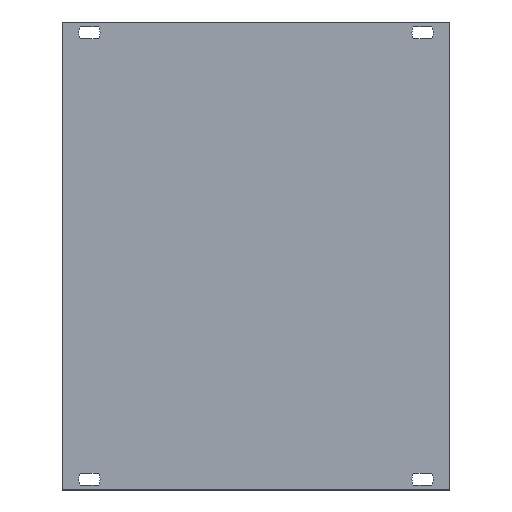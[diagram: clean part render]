
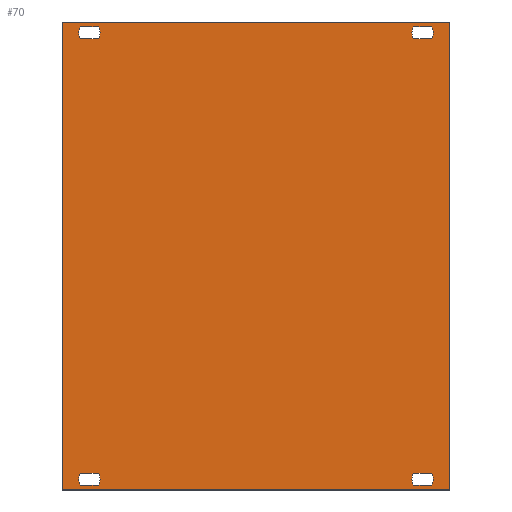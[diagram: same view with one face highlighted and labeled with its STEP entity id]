
A CAD part, top view. The second image highlights one B-rep face of the part: STEP entity #70.
In plain terms, the highlighted planar face has unit normal (0, 0, 1).
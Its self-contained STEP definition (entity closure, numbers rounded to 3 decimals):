
#70=ADVANCED_FACE('',(#155,#156,#157,#158,#159),#160,.F.);
#155=FACE_OUTER_BOUND('',#260,.T.);
#156=FACE_BOUND('',#261,.T.);
#157=FACE_BOUND('',#262,.T.);
#158=FACE_BOUND('',#263,.T.);
#159=FACE_BOUND('',#264,.T.);
#160=PLANE('',#265);
#260=EDGE_LOOP('',(#399,#400,#401,#402));
#261=EDGE_LOOP('',(#403,#404,#405,#406,#407,#408));
#262=EDGE_LOOP('',(#409,#410,#411,#412,#413,#414));
#263=EDGE_LOOP('',(#415,#416,#417,#418,#419,#420));
#264=EDGE_LOOP('',(#421,#422,#423,#424,#425,#426));
#265=AXIS2_PLACEMENT_3D('',#427,#428,#429);
#399=ORIENTED_EDGE('',*,*,#663,.T.);
#400=ORIENTED_EDGE('',*,*,#664,.F.);
#401=ORIENTED_EDGE('',*,*,#665,.F.);
#402=ORIENTED_EDGE('',*,*,#666,.F.);
#403=ORIENTED_EDGE('',*,*,#659,.T.);
#404=ORIENTED_EDGE('',*,*,#667,.T.);
#405=ORIENTED_EDGE('',*,*,#668,.T.);
#406=ORIENTED_EDGE('',*,*,#669,.T.);
#407=ORIENTED_EDGE('',*,*,#656,.T.);
#408=ORIENTED_EDGE('',*,*,#670,.T.);
#409=ORIENTED_EDGE('',*,*,#649,.T.);
#410=ORIENTED_EDGE('',*,*,#671,.T.);
#411=ORIENTED_EDGE('',*,*,#672,.T.);
#412=ORIENTED_EDGE('',*,*,#673,.T.);
#413=ORIENTED_EDGE('',*,*,#646,.T.);
#414=ORIENTED_EDGE('',*,*,#674,.T.);
#415=ORIENTED_EDGE('',*,*,#639,.T.);
#416=ORIENTED_EDGE('',*,*,#675,.T.);
#417=ORIENTED_EDGE('',*,*,#676,.T.);
#418=ORIENTED_EDGE('',*,*,#677,.T.);
#419=ORIENTED_EDGE('',*,*,#636,.T.);
#420=ORIENTED_EDGE('',*,*,#678,.T.);
#421=ORIENTED_EDGE('',*,*,#629,.T.);
#422=ORIENTED_EDGE('',*,*,#679,.T.);
#423=ORIENTED_EDGE('',*,*,#680,.T.);
#424=ORIENTED_EDGE('',*,*,#681,.T.);
#425=ORIENTED_EDGE('',*,*,#626,.T.);
#426=ORIENTED_EDGE('',*,*,#682,.T.);
#427=CARTESIAN_POINT('',(45.72,61.2,2.5));
#428=DIRECTION('',(0.0,0.,-1.0));
#429=DIRECTION('',(0.0,-1.0,0.));
#626=EDGE_CURVE('',#738,#742,#744,.T.);
#629=EDGE_CURVE('',#749,#746,#750,.T.);
#636=EDGE_CURVE('',#756,#760,#762,.T.);
#639=EDGE_CURVE('',#767,#764,#768,.T.);
#646=EDGE_CURVE('',#774,#778,#780,.T.);
#649=EDGE_CURVE('',#785,#782,#786,.T.);
#656=EDGE_CURVE('',#792,#796,#798,.T.);
#659=EDGE_CURVE('',#803,#800,#804,.T.);
#663=EDGE_CURVE('',#809,#810,#811,.T.);
#664=EDGE_CURVE('',#812,#810,#813,.T.);
#665=EDGE_CURVE('',#814,#812,#815,.T.);
#666=EDGE_CURVE('',#809,#814,#816,.T.);
#667=EDGE_CURVE('',#800,#817,#818,.T.);
#668=EDGE_CURVE('',#817,#819,#820,.T.);
#669=EDGE_CURVE('',#819,#792,#821,.T.);
#670=EDGE_CURVE('',#796,#803,#822,.T.);
#671=EDGE_CURVE('',#782,#823,#824,.T.);
#672=EDGE_CURVE('',#823,#825,#826,.T.);
#673=EDGE_CURVE('',#825,#774,#827,.T.);
#674=EDGE_CURVE('',#778,#785,#828,.T.);
#675=EDGE_CURVE('',#764,#829,#830,.T.);
#676=EDGE_CURVE('',#829,#831,#832,.T.);
#677=EDGE_CURVE('',#831,#756,#833,.T.);
#678=EDGE_CURVE('',#760,#767,#834,.T.);
#679=EDGE_CURVE('',#746,#835,#836,.T.);
#680=EDGE_CURVE('',#835,#837,#838,.T.);
#681=EDGE_CURVE('',#837,#738,#839,.T.);
#682=EDGE_CURVE('',#742,#749,#840,.T.);
#738=VERTEX_POINT('',#908);
#742=VERTEX_POINT('',#913);
#744=CIRCLE('',#916,2.95);
#746=VERTEX_POINT('',#918);
#749=VERTEX_POINT('',#922);
#750=CIRCLE('',#923,2.95);
#756=VERTEX_POINT('',#930);
#760=VERTEX_POINT('',#935);
#762=CIRCLE('',#938,2.95);
#764=VERTEX_POINT('',#940);
#767=VERTEX_POINT('',#944);
#768=CIRCLE('',#945,2.95);
#774=VERTEX_POINT('',#952);
#778=VERTEX_POINT('',#957);
#780=CIRCLE('',#960,2.95);
#782=VERTEX_POINT('',#962);
#785=VERTEX_POINT('',#966);
#786=CIRCLE('',#967,2.95);
#792=VERTEX_POINT('',#974);
#796=VERTEX_POINT('',#979);
#798=CIRCLE('',#982,2.95);
#800=VERTEX_POINT('',#984);
#803=VERTEX_POINT('',#988);
#804=CIRCLE('',#989,2.95);
#809=VERTEX_POINT('',#995);
#810=VERTEX_POINT('',#996);
#811=LINE('',#997,#998);
#812=VERTEX_POINT('',#999);
#813=LINE('',#1000,#1001);
#814=VERTEX_POINT('',#1002);
#815=LINE('',#1003,#1004);
#816=LINE('',#1005,#1006);
#817=VERTEX_POINT('',#1007);
#818=CIRCLE('',#1008,2.95);
#819=VERTEX_POINT('',#1009);
#820=LINE('',#1010,#1011);
#821=CIRCLE('',#1012,2.95);
#822=LINE('',#1013,#1014);
#823=VERTEX_POINT('',#1015);
#824=CIRCLE('',#1016,2.95);
#825=VERTEX_POINT('',#1017);
#826=LINE('',#1018,#1019);
#827=CIRCLE('',#1020,2.95);
#828=LINE('',#1021,#1022);
#829=VERTEX_POINT('',#1023);
#830=CIRCLE('',#1024,2.95);
#831=VERTEX_POINT('',#1025);
#832=LINE('',#1026,#1027);
#833=CIRCLE('',#1028,2.95);
#834=LINE('',#1029,#1030);
#835=VERTEX_POINT('',#1031);
#836=CIRCLE('',#1032,2.95);
#837=VERTEX_POINT('',#1033);
#838=LINE('',#1034,#1035);
#839=CIRCLE('',#1036,2.95);
#840=LINE('',#1037,#1038);
#908=CARTESIAN_POINT('',(2.95,0.,2.5));
#913=CARTESIAN_POINT('',(2.445,-1.65,2.5));
#916=AXIS2_PLACEMENT_3D('',#1133,#1134,#1135);
#918=CARTESIAN_POINT('',(-2.95,0.,2.5));
#922=CARTESIAN_POINT('',(-2.445,-1.65,2.5));
#923=AXIS2_PLACEMENT_3D('',#1137,#1138,#1139);
#930=CARTESIAN_POINT('',(2.95,122.4,2.5));
#935=CARTESIAN_POINT('',(2.445,120.75,2.5));
#938=AXIS2_PLACEMENT_3D('',#1149,#1150,#1151);
#940=CARTESIAN_POINT('',(-2.95,122.4,2.5));
#944=CARTESIAN_POINT('',(-2.445,120.75,2.5));
#945=AXIS2_PLACEMENT_3D('',#1153,#1154,#1155);
#952=CARTESIAN_POINT('',(94.39,0.,2.5));
#957=CARTESIAN_POINT('',(93.885,-1.65,2.5));
#960=AXIS2_PLACEMENT_3D('',#1165,#1166,#1167);
#962=CARTESIAN_POINT('',(88.49,0.,2.5));
#966=CARTESIAN_POINT('',(88.995,-1.65,2.5));
#967=AXIS2_PLACEMENT_3D('',#1169,#1170,#1171);
#974=CARTESIAN_POINT('',(94.39,122.4,2.5));
#979=CARTESIAN_POINT('',(93.885,120.75,2.5));
#982=AXIS2_PLACEMENT_3D('',#1181,#1182,#1183);
#984=CARTESIAN_POINT('',(88.49,122.4,2.5));
#988=CARTESIAN_POINT('',(88.995,120.75,2.5));
#989=AXIS2_PLACEMENT_3D('',#1185,#1186,#1187);
#995=CARTESIAN_POINT('',(-7.45,125.4,2.5));
#996=CARTESIAN_POINT('',(-7.45,-3.0,2.5));
#997=CARTESIAN_POINT('',(-7.45,61.2,2.5));
#998=VECTOR('',#1192,1.0);
#999=CARTESIAN_POINT('',(98.89,-3.0,2.5));
#1000=CARTESIAN_POINT('',(45.72,-3.0,2.5));
#1001=VECTOR('',#1193,1.0);
#1002=CARTESIAN_POINT('',(98.89,125.4,2.5));
#1003=CARTESIAN_POINT('',(98.89,61.2,2.5));
#1004=VECTOR('',#1194,1.0);
#1005=CARTESIAN_POINT('',(45.72,125.4,2.5));
#1006=VECTOR('',#1195,1.0);
#1007=CARTESIAN_POINT('',(88.995,124.05,2.5));
#1008=AXIS2_PLACEMENT_3D('',#1196,#1197,#1198);
#1009=CARTESIAN_POINT('',(93.885,124.05,2.5));
#1010=CARTESIAN_POINT('',(68.58,124.05,2.5));
#1011=VECTOR('',#1199,1.0);
#1012=AXIS2_PLACEMENT_3D('',#1200,#1201,#1202);
#1013=CARTESIAN_POINT('',(68.58,120.75,2.5));
#1014=VECTOR('',#1203,1.0);
#1015=CARTESIAN_POINT('',(88.995,1.65,2.5));
#1016=AXIS2_PLACEMENT_3D('',#1204,#1205,#1206);
#1017=CARTESIAN_POINT('',(93.885,1.65,2.5));
#1018=CARTESIAN_POINT('',(68.58,1.65,2.5));
#1019=VECTOR('',#1207,1.0);
#1020=AXIS2_PLACEMENT_3D('',#1208,#1209,#1210);
#1021=CARTESIAN_POINT('',(68.58,-1.65,2.5));
#1022=VECTOR('',#1211,1.0);
#1023=CARTESIAN_POINT('',(-2.445,124.05,2.5));
#1024=AXIS2_PLACEMENT_3D('',#1212,#1213,#1214);
#1025=CARTESIAN_POINT('',(2.445,124.05,2.5));
#1026=CARTESIAN_POINT('',(22.86,124.05,2.5));
#1027=VECTOR('',#1215,1.0);
#1028=AXIS2_PLACEMENT_3D('',#1216,#1217,#1218);
#1029=CARTESIAN_POINT('',(22.86,120.75,2.5));
#1030=VECTOR('',#1219,1.0);
#1031=CARTESIAN_POINT('',(-2.445,1.65,2.5));
#1032=AXIS2_PLACEMENT_3D('',#1220,#1221,#1222);
#1033=CARTESIAN_POINT('',(2.445,1.65,2.5));
#1034=CARTESIAN_POINT('',(22.86,1.65,2.5));
#1035=VECTOR('',#1223,1.0);
#1036=AXIS2_PLACEMENT_3D('',#1224,#1225,#1226);
#1037=CARTESIAN_POINT('',(22.86,-1.65,2.5));
#1038=VECTOR('',#1227,1.0);
#1133=CARTESIAN_POINT('',(0.,0.,2.5));
#1134=DIRECTION('',(0.0,0.,-1.0));
#1135=DIRECTION('',(1.0,0.0,0.0));
#1137=CARTESIAN_POINT('',(0.,0.,2.5));
#1138=DIRECTION('',(0.0,0.,-1.0));
#1139=DIRECTION('',(1.0,0.0,0.0));
#1149=CARTESIAN_POINT('',(0.,122.4,2.5));
#1150=DIRECTION('',(0.0,0.,-1.0));
#1151=DIRECTION('',(1.0,0.0,0.0));
#1153=CARTESIAN_POINT('',(0.,122.4,2.5));
#1154=DIRECTION('',(0.0,0.,-1.0));
#1155=DIRECTION('',(1.0,0.0,0.0));
#1165=CARTESIAN_POINT('',(91.44,0.,2.5));
#1166=DIRECTION('',(0.0,0.,-1.0));
#1167=DIRECTION('',(1.0,0.0,0.0));
#1169=CARTESIAN_POINT('',(91.44,0.,2.5));
#1170=DIRECTION('',(0.0,0.,-1.0));
#1171=DIRECTION('',(1.0,0.0,0.0));
#1181=CARTESIAN_POINT('',(91.44,122.4,2.5));
#1182=DIRECTION('',(0.0,0.,-1.0));
#1183=DIRECTION('',(1.0,0.0,0.0));
#1185=CARTESIAN_POINT('',(91.44,122.4,2.5));
#1186=DIRECTION('',(0.0,0.,-1.0));
#1187=DIRECTION('',(1.0,0.0,0.0));
#1192=DIRECTION('',(0.0,-1.0,0.));
#1193=DIRECTION('',(-1.0,0.0,0.0));
#1194=DIRECTION('',(0.0,-1.0,0.));
#1195=DIRECTION('',(1.0,0.0,0.0));
#1196=CARTESIAN_POINT('',(91.44,122.4,2.5));
#1197=DIRECTION('',(0.0,0.,-1.0));
#1198=DIRECTION('',(1.0,0.0,0.0));
#1199=DIRECTION('',(1.0,0.,0.));
#1200=CARTESIAN_POINT('',(91.44,122.4,2.5));
#1201=DIRECTION('',(0.0,0.,-1.0));
#1202=DIRECTION('',(1.0,0.0,0.0));
#1203=DIRECTION('',(-1.0,0.,0.));
#1204=CARTESIAN_POINT('',(91.44,0.,2.5));
#1205=DIRECTION('',(0.0,0.,-1.0));
#1206=DIRECTION('',(1.0,0.0,0.0));
#1207=DIRECTION('',(1.0,0.,0.));
#1208=CARTESIAN_POINT('',(91.44,0.,2.5));
#1209=DIRECTION('',(0.0,0.,-1.0));
#1210=DIRECTION('',(1.0,0.0,0.0));
#1211=DIRECTION('',(-1.0,0.,0.));
#1212=CARTESIAN_POINT('',(0.,122.4,2.5));
#1213=DIRECTION('',(0.0,0.,-1.0));
#1214=DIRECTION('',(1.0,0.0,0.0));
#1215=DIRECTION('',(1.0,0.,0.));
#1216=CARTESIAN_POINT('',(0.,122.4,2.5));
#1217=DIRECTION('',(0.0,0.,-1.0));
#1218=DIRECTION('',(1.0,0.0,0.0));
#1219=DIRECTION('',(-1.0,0.,0.));
#1220=CARTESIAN_POINT('',(0.,0.,2.5));
#1221=DIRECTION('',(0.0,0.,-1.0));
#1222=DIRECTION('',(1.0,0.0,0.0));
#1223=DIRECTION('',(1.0,0.,0.));
#1224=CARTESIAN_POINT('',(0.,0.,2.5));
#1225=DIRECTION('',(0.0,0.,-1.0));
#1226=DIRECTION('',(1.0,0.0,0.0));
#1227=DIRECTION('',(-1.0,0.,0.));
